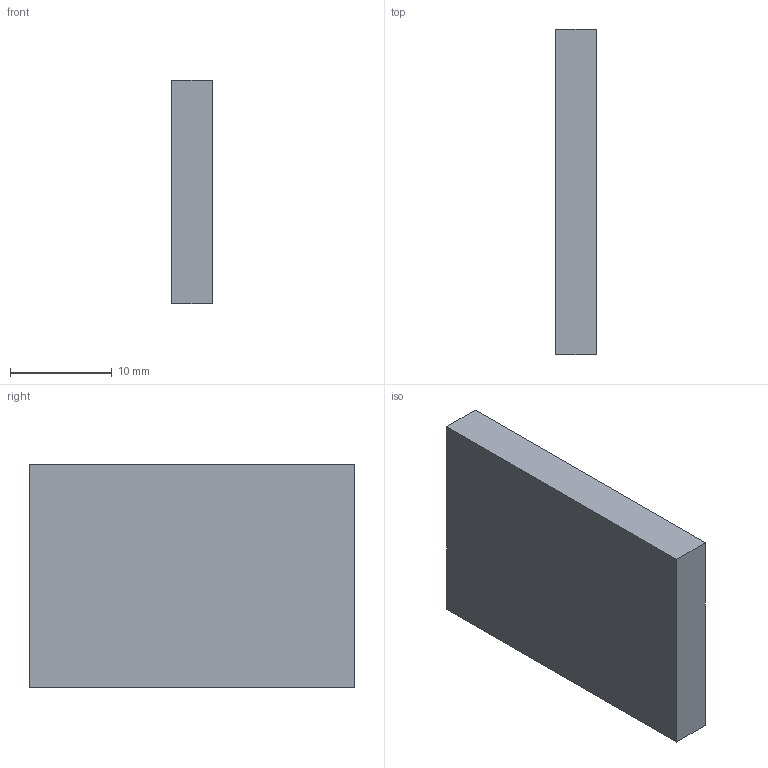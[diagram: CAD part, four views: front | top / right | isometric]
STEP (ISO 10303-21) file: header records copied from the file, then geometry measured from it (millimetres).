
FILE_DESCRIPTION(('Open CASCADE Model'),'2;1');
FILE_NAME('Open CASCADE Shape Model','2026-11-05T01:47:42',('Author'),( 'Open CASCADE'),'Open CASCADE STEP processor 7.8','Open CASCADE 7.8' ,'Unknown');
FILE_SCHEMA(('AUTOMOTIVE_DESIGN { 1 0 10303 214 1 1 1 1 }'));
Length unit declared in the file: millimetre
Products named in the file (1): Open CASCADE STEP translator 7.8 23
Bounding box: 4 x 32 x 22 mm (x, y, z)
Volume: 2816 mm3; surface area: 1840 mm2
Topology: 1 solids, 1 shells, 6 faces, 12 edges, 8 vertices
Faces by surface type: plane 6
Entity records: 322 total; most frequent: CARTESIAN_POINT 51, DIRECTION 50, LINE 36, VECTOR 36, ORIENTED_EDGE 24, PCURVE 24, DEFINITIONAL_REPRESENTATION 24, EDGE_CURVE 12
